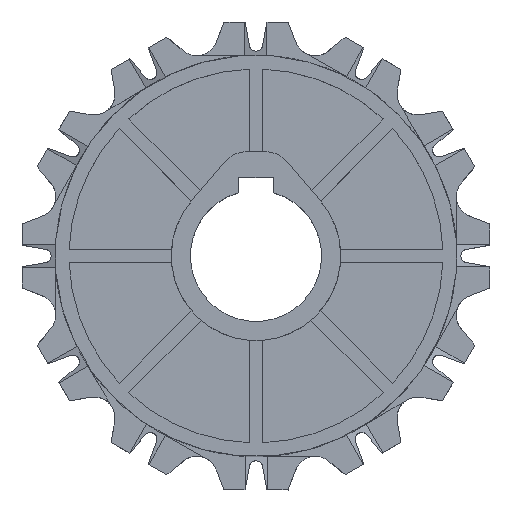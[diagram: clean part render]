
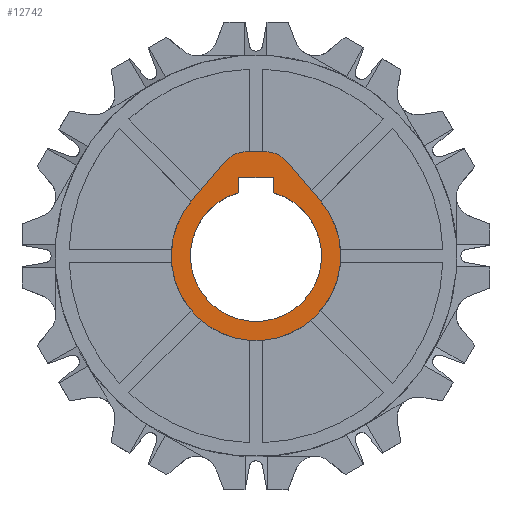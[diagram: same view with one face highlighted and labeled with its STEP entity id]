
A CAD part, top view. The second image highlights one B-rep face of the part: STEP entity #12742.
In plain terms, the highlighted planar face has unit normal (0, 0, 1).
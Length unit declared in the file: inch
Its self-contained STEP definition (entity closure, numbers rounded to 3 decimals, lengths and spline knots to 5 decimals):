
#1=DIRECTION('',(-1.,0.,0.));
#2=VECTOR('',#1,0.175);
#3=CARTESIAN_POINT('',(0.0875,0.9375,0.74));
#4=LINE('',#3,#2);
#5=CARTESIAN_POINT('',(0.0875,0.6875,0.74));
#6=DIRECTION('',(0.,0.,-1.));
#7=DIRECTION('',(0.,1.,0.));
#8=AXIS2_PLACEMENT_3D('',#5,#6,#7);
#10=DIRECTION('',(-0.649,0.761,0.));
#11=VECTOR('',#10,0.46654);
#12=CARTESIAN_POINT('',(0.58037,0.49454,0.74));
#13=LINE('',#12,#11);
#14=CARTESIAN_POINT('',(0.,0.,0.74));
#15=DIRECTION('',(0.,0.,-1.));
#16=DIRECTION('',(0.761,0.649,0.));
#17=AXIS2_PLACEMENT_3D('',#14,#15,#16);
#19=DIRECTION('',(-0.649,-0.761,0.));
#20=VECTOR('',#19,0.46654);
#21=CARTESIAN_POINT('',(-0.27779,0.84965,0.74));
#22=LINE('',#21,#20);
#23=CARTESIAN_POINT('',(-0.0875,0.6875,0.74));
#24=DIRECTION('',(0.,0.,-1.));
#25=DIRECTION('',(-0.761,0.649,0.));
#26=AXIS2_PLACEMENT_3D('',#23,#24,#25);
#28=DIRECTION('',(0.,-1.,0.));
#29=VECTOR('',#28,0.138);
#30=CARTESIAN_POINT('',(-0.1575,0.70711,0.74));
#31=LINE('',#30,#29);
#32=CARTESIAN_POINT('',(0.,0.,0.74));
#33=DIRECTION('',(0.,0.,1.));
#34=DIRECTION('',(-0.267,0.964,0.));
#35=AXIS2_PLACEMENT_3D('',#32,#33,#34);
#37=DIRECTION('',(0.,1.,0.));
#38=VECTOR('',#37,0.138);
#39=CARTESIAN_POINT('',(0.1575,0.56911,0.74));
#40=LINE('',#39,#38);
#41=DIRECTION('',(-1.,0.,0.));
#42=VECTOR('',#41,0.315);
#43=CARTESIAN_POINT('',(0.1575,0.70711,0.74));
#44=LINE('',#43,#42);
#10669=CARTESIAN_POINT('',(0.0875,0.9375,0.74));
#10670=CARTESIAN_POINT('',(-0.0875,0.9375,0.74));
#10671=VERTEX_POINT('',#10669);
#10672=VERTEX_POINT('',#10670);
#10673=CARTESIAN_POINT('',(-0.27779,0.84965,0.74));
#10674=VERTEX_POINT('',#10673);
#10675=CARTESIAN_POINT('',(-0.58037,0.49454,0.74));
#10676=VERTEX_POINT('',#10675);
#10677=CARTESIAN_POINT('',(0.58037,0.49454,0.74));
#10678=VERTEX_POINT('',#10677);
#10679=CARTESIAN_POINT('',(0.27779,0.84965,0.74));
#10680=VERTEX_POINT('',#10679);
#12697=CARTESIAN_POINT('',(-0.1575,0.70711,0.74));
#12698=CARTESIAN_POINT('',(-0.1575,0.56911,0.74));
#12699=VERTEX_POINT('',#12697);
#12700=VERTEX_POINT('',#12698);
#12701=CARTESIAN_POINT('',(0.1575,0.56911,0.74));
#12702=VERTEX_POINT('',#12701);
#12703=CARTESIAN_POINT('',(0.1575,0.70711,0.74));
#12704=VERTEX_POINT('',#12703);
#12713=CARTESIAN_POINT('',(0.,0.,0.74));
#12714=DIRECTION('',(0.,0.,1.));
#12715=DIRECTION('',(1.,0.,0.));
#12716=AXIS2_PLACEMENT_3D('',#12713,#12714,#12715);
#12717=PLANE('',#12716);
#12719=ORIENTED_EDGE('',*,*,#12718,.F.);
#12721=ORIENTED_EDGE('',*,*,#12720,.T.);
#12723=ORIENTED_EDGE('',*,*,#12722,.F.);
#12725=ORIENTED_EDGE('',*,*,#12724,.T.);
#12727=ORIENTED_EDGE('',*,*,#12726,.F.);
#12729=ORIENTED_EDGE('',*,*,#12728,.T.);
#12730=EDGE_LOOP('',(#12719,#12721,#12723,#12725,#12727,#12729));
#12731=FACE_OUTER_BOUND('',#12730,.F.);
#12733=ORIENTED_EDGE('',*,*,#12732,.T.);
#12735=ORIENTED_EDGE('',*,*,#12734,.T.);
#12737=ORIENTED_EDGE('',*,*,#12736,.T.);
#12739=ORIENTED_EDGE('',*,*,#12738,.T.);
#12740=EDGE_LOOP('',(#12733,#12735,#12737,#12739));
#12741=FACE_BOUND('',#12740,.F.);
#12742=ADVANCED_FACE('',(#12731,#12741),#12717,.T.);
#9=CIRCLE('',#8,0.25);
#18=CIRCLE('',#17,0.7625);
#27=CIRCLE('',#26,0.25);
#36=CIRCLE('',#35,0.5905);
#12718=EDGE_CURVE('',#10671,#10672,#4,.T.);
#12720=EDGE_CURVE('',#10671,#10680,#9,.T.);
#12722=EDGE_CURVE('',#10678,#10680,#13,.T.);
#12724=EDGE_CURVE('',#10678,#10676,#18,.T.);
#12726=EDGE_CURVE('',#10674,#10676,#22,.T.);
#12728=EDGE_CURVE('',#10674,#10672,#27,.T.);
#12732=EDGE_CURVE('',#12699,#12700,#31,.T.);
#12734=EDGE_CURVE('',#12700,#12702,#36,.T.);
#12736=EDGE_CURVE('',#12702,#12704,#40,.T.);
#12738=EDGE_CURVE('',#12704,#12699,#44,.T.);
